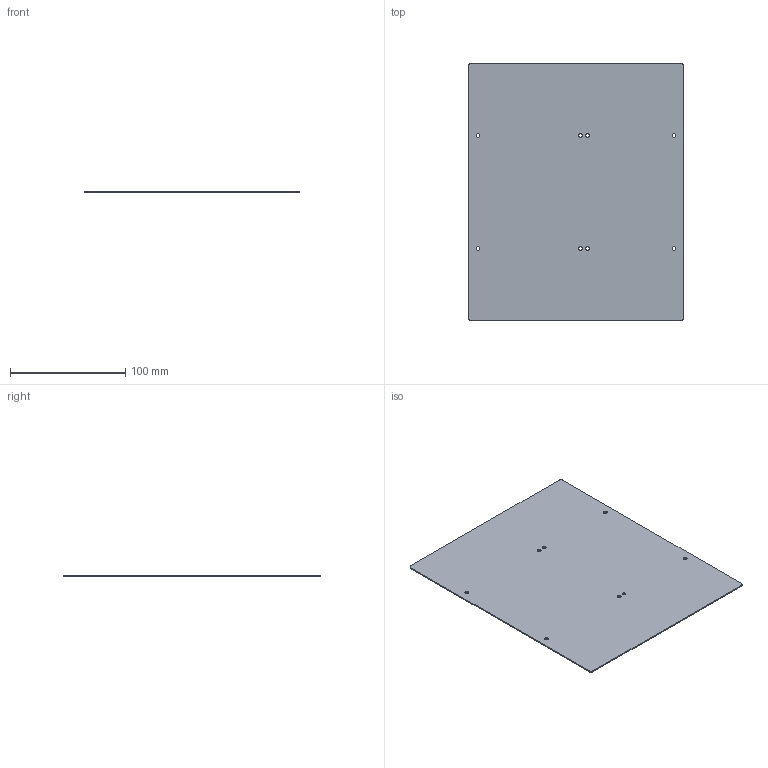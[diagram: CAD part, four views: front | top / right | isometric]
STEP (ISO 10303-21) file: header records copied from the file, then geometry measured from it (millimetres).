
FILE_DESCRIPTION(('FreeCAD Model'),'2;1');
FILE_NAME('Open CASCADE Shape Model','2021-12-19T00:38:03',('Author'),( ''),'Open CASCADE STEP processor 7.4','FreeCAD','Unknown');
FILE_SCHEMA(('AUTOMOTIVE_DESIGN { 1 0 10303 214 1 1 1 1 }'));
Length unit declared in the file: millimetre
Products named in the file (1): Unfold002
Bounding box: 186 x 223.4 x 1 mm (x, y, z)
Volume: 41484.3 mm3; surface area: 83864.4 mm2
Topology: 1 solids, 1 shells, 18 faces, 48 edges, 32 vertices
Faces by surface type: cylinder 12, plane 6
Full cylindrical faces by diameter (mm): 3.2 x8
Entity records: 1290 total; most frequent: CARTESIAN_POINT 267, DIRECTION 194, ORIENTED_EDGE 96, PCURVE 96, DEFINITIONAL_REPRESENTATION 96, LINE 96, VECTOR 96, EDGE_CURVE 48
